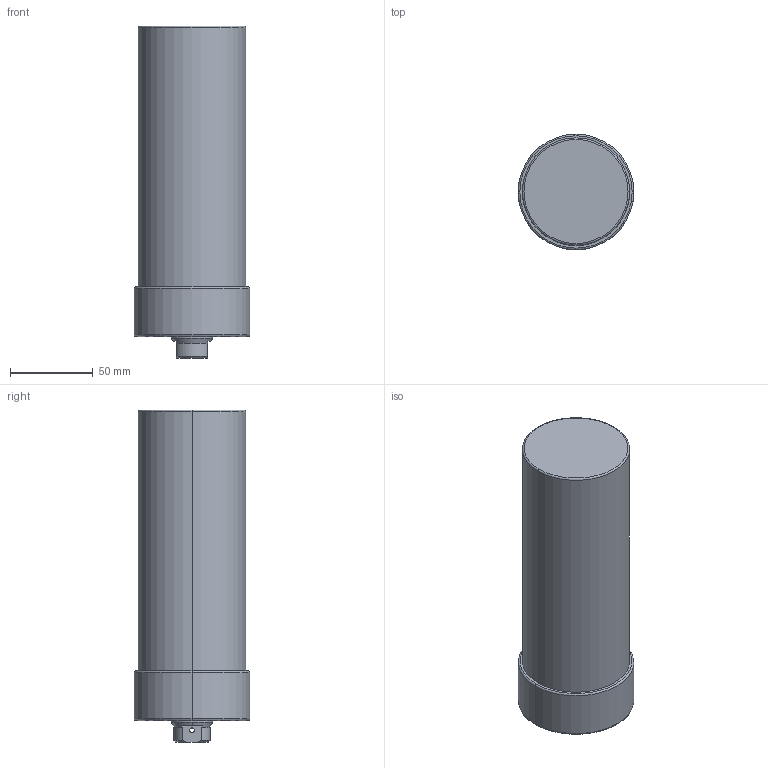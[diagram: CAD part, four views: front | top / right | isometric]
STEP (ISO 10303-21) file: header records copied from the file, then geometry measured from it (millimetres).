
FILE_DESCRIPTION (( 'STEP AP203' ), '1' );
FILE_NAME ('CLLU-065GB-125.STEP', '2020-01-07T06:46:48', ( '' ), ( '' ), 'SwSTEP 2.0', 'SolidWorks 2015', '' );
FILE_SCHEMA (( 'CONFIG_CONTROL_DESIGN' ));
Length unit declared in the file: millimetre
Products named in the file (1): CLLU-065GB-125
Bounding box: 70 x 70 x 201 mm (x, y, z)
Volume: 640117.5 mm3; surface area: 49345.4 mm2
Topology: 1 solids, 1 shells, 66 faces, 154 edges, 87 vertices
Faces by surface type: cylinder 26, cone 24, plane 10, torus 6
Entity records: 2001 total; most frequent: CARTESIAN_POINT 430, DIRECTION 342, ORIENTED_EDGE 288, EDGE_CURVE 144, AXIS2_PLACEMENT_3D 143, VERTEX_POINT 87, EDGE_LOOP 77, CIRCLE 76
